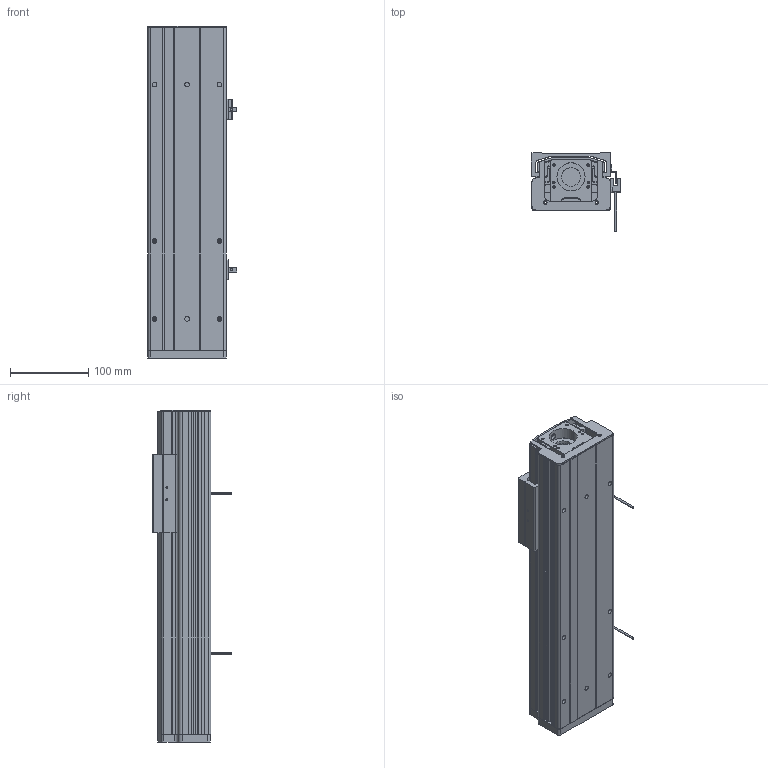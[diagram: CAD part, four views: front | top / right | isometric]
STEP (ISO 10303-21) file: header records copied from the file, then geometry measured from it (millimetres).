
FILE_DESCRIPTION (( 'STEP AP203' ), '1' );
FILE_NAME ('CTHM10-S200-O-BC.STEP', '2019-12-18T01:14:09', ( '微软用户' ), ( '微软中国' ), 'SwSTEP 2.0', 'SolidWorks 2017', '' );
FILE_SCHEMA (( 'CONFIG_CONTROL_DESIGN' ));
Length unit declared in the file: millimetre
Products named in the file (11): CTHM10裔啣(100); CTHM10傷裔(祥結裔啣); CTHM10綴傷裔; 覜茼え; 遣喳蝶15x12x8; CTHM10菁釱(200); EE-SX672-BR; CTHM10痄雄釱(党蜊); CTHM10-S200-O-BC; CTHM10盓傅耜; CTHM10固定侧自制轴承座
Assembly tree (14 placements, depth 2):
  CTHM10-S200-O-BC
    CTHM10菁釱(200)
    CTHM10痄雄釱(党蜊)
    CTHM10盓傅耜
    CTHM10固定侧自制轴承座
    CTHM10裔啣(100)
    CTHM10傷裔(祥結裔啣)
    CTHM10綴傷裔
    覜茼え
    遣喳蝶15x12x8  x4
    EE-SX672-BR  x2
Bounding box: 114.7 x 100.2 x 425 mm (x, y, z)
Volume: 1319119.8 mm3; surface area: 450202.4 mm2
Topology: 14 solids, 14 shells, 930 faces, 2632 edges, 1716 vertices
Faces by surface type: cylinder 493, plane 393, cone 44
Entity records: 31407 total; most frequent: CARTESIAN_POINT 7575, DIRECTION 4766, ORIENTED_EDGE 4736, EDGE_CURVE 2368, AXIS2_PLACEMENT_3D 1737, VERTEX_POINT 1564, VECTOR 1292, LINE 1292
